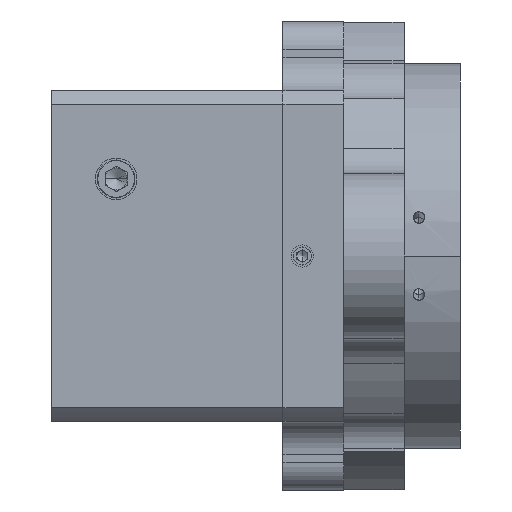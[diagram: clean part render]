
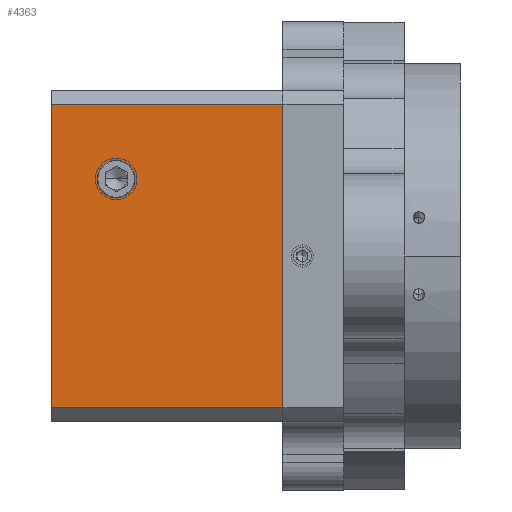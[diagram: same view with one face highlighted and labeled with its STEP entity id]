
A CAD part, front view. The second image highlights one B-rep face of the part: STEP entity #4363.
In plain terms, the highlighted planar face has unit normal (0, -1, 0).
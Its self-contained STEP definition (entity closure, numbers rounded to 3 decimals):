
#1117 = DIRECTION ( 'NONE',  ( 0., 0., 1. ) ) ;
#1303 = LINE ( 'NONE', #12689, #3962 ) ;
#2856 = CIRCLE ( 'NONE', #7401, 3.4 ) ;
#2924 = EDGE_CURVE ( 'NONE', #5968, #3569, #7226, .T. ) ;
#3075 = LINE ( 'NONE', #11284, #7072 ) ;
#3241 = CARTESIAN_POINT ( 'NONE',  ( 0., -76.448, -27.578 ) ) ;
#3569 = VERTEX_POINT ( 'NONE', #12261 ) ;
#3818 = CARTESIAN_POINT ( 'NONE',  ( -30.3, -76.448, 10.6 ) ) ;
#3870 = EDGE_LOOP ( 'NONE', ( #6231, #4315, #12907, #11261 ) ) ;
#3874 = LINE ( 'NONE', #13341, #7039 ) ;
#3962 = VECTOR ( 'NONE', #4568, 1000. ) ;
#4315 = ORIENTED_EDGE ( 'NONE', *, *, #5473, .T. ) ;
#4363 = ADVANCED_FACE ( 'NONE', ( #13892, #6669 ), #14666, .T. ) ;
#4449 = VERTEX_POINT ( 'NONE', #7610 ) ;
#4568 = DIRECTION ( 'NONE',  ( 1., 0., 0. ) ) ;
#5473 = EDGE_CURVE ( 'NONE', #13304, #11509, #3075, .T. ) ;
#5736 = EDGE_CURVE ( 'NONE', #3569, #5968, #2856, .T. ) ;
#5956 = VECTOR ( 'NONE', #14677, 1000. ) ;
#5968 = VERTEX_POINT ( 'NONE', #3818 ) ;
#6061 = DIRECTION ( 'NONE',  ( 0., 1., 0. ) ) ;
#6092 = VERTEX_POINT ( 'NONE', #10976 ) ;
#6231 = ORIENTED_EDGE ( 'NONE', *, *, #6605, .T. ) ;
#6564 = DIRECTION ( 'NONE',  ( 0., 0., -1. ) ) ;
#6605 = EDGE_CURVE ( 'NONE', #6092, #13304, #9988, .T. ) ;
#6669 = FACE_OUTER_BOUND ( 'NONE', #3870, .T. ) ;
#7039 = VECTOR ( 'NONE', #6564, 1000. ) ;
#7072 = VECTOR ( 'NONE', #1117, 1000. ) ;
#7147 = ORIENTED_EDGE ( 'NONE', *, *, #5736, .T. ) ;
#7226 = CIRCLE ( 'NONE', #16737, 3.4 ) ;
#7401 = AXIS2_PLACEMENT_3D ( 'NONE', #14205, #6061, #15567 ) ;
#7610 = CARTESIAN_POINT ( 'NONE',  ( -42., -76.448, 27.578 ) ) ;
#7763 = DIRECTION ( 'NONE',  ( 0., 1., 0. ) ) ;
#7971 = CARTESIAN_POINT ( 'NONE',  ( 0., -76.448, -27.578 ) ) ;
#8337 = EDGE_CURVE ( 'NONE', #4449, #6092, #3874, .T. ) ;
#9429 = AXIS2_PLACEMENT_3D ( 'NONE', #14261, #13298, #13136 ) ;
#9988 = LINE ( 'NONE', #7971, #5956 ) ;
#10976 = CARTESIAN_POINT ( 'NONE',  ( -42., -76.448, -27.578 ) ) ;
#11261 = ORIENTED_EDGE ( 'NONE', *, *, #8337, .T. ) ;
#11284 = CARTESIAN_POINT ( 'NONE',  ( 0., -76.448, 0. ) ) ;
#11509 = VERTEX_POINT ( 'NONE', #16668 ) ;
#12261 = CARTESIAN_POINT ( 'NONE',  ( -30.3, -76.448, 17.4 ) ) ;
#12335 = ORIENTED_EDGE ( 'NONE', *, *, #2924, .T. ) ;
#12689 = CARTESIAN_POINT ( 'NONE',  ( 13.5, -76.448, 27.578 ) ) ;
#12907 = ORIENTED_EDGE ( 'NONE', *, *, #15394, .F. ) ;
#13136 = DIRECTION ( 'NONE',  ( 1., 0., 0. ) ) ;
#13298 = DIRECTION ( 'NONE',  ( 0., -1., 0. ) ) ;
#13304 = VERTEX_POINT ( 'NONE', #3241 ) ;
#13341 = CARTESIAN_POINT ( 'NONE',  ( -42., -76.448, 30. ) ) ;
#13892 = FACE_BOUND ( 'NONE', #15120, .T. ) ;
#14029 = DIRECTION ( 'NONE',  ( 0., 0., -1. ) ) ;
#14205 = CARTESIAN_POINT ( 'NONE',  ( -30.3, -76.448, 14. ) ) ;
#14261 = CARTESIAN_POINT ( 'NONE',  ( 0., -76.448, 30. ) ) ;
#14666 = PLANE ( 'NONE',  #9429 ) ;
#14677 = DIRECTION ( 'NONE',  ( 1., 0., 0. ) ) ;
#15120 = EDGE_LOOP ( 'NONE', ( #12335, #7147 ) ) ;
#15394 = EDGE_CURVE ( 'NONE', #4449, #11509, #1303, .T. ) ;
#15567 = DIRECTION ( 'NONE',  ( 0., 0., -1. ) ) ;
#16668 = CARTESIAN_POINT ( 'NONE',  ( 0., -76.448, 27.578 ) ) ;
#16737 = AXIS2_PLACEMENT_3D ( 'NONE', #16872, #7763, #14029 ) ;
#16872 = CARTESIAN_POINT ( 'NONE',  ( -30.3, -76.448, 14. ) ) ;
